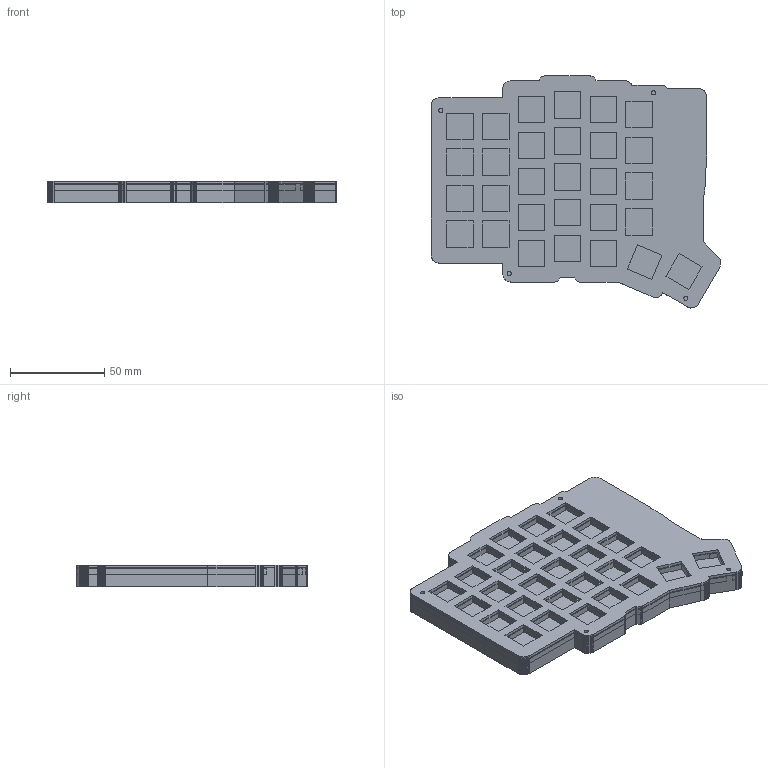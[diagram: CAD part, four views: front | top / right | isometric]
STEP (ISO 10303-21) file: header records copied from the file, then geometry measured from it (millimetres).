
FILE_DESCRIPTION(('Open CASCADE Model'),'2;1');
FILE_NAME('Open CASCADE Shape Model','1979-01-01T00:00:00',('Author'),( 'Open CASCADE'),'Open CASCADE STEP processor 8.0','Open CASCADE 8.0' ,'Unknown');
FILE_SCHEMA(('AUTOMOTIVE_DESIGN { 1 0 10303 214 1 1 1 1 }'));
Length unit declared in the file: millimetre
Products named in the file (6): Open CASCADE STEP translator 8.0 41; Open CASCADE STEP translator 8.0 41.1; Open CASCADE STEP translator 8.0 41.2; Open CASCADE STEP translator 8.0 41.3; Open CASCADE STEP translator 8.0 41.4; Open CASCADE STEP translator 8.0 41.5
Assembly tree (5 placements, depth 2):
  Open CASCADE STEP translator 8.0 41
    Open CASCADE STEP translator 8.0 41.1
    Open CASCADE STEP translator 8.0 41.2
    Open CASCADE STEP translator 8.0 41.3
    Open CASCADE STEP translator 8.0 41.4
    Open CASCADE STEP translator 8.0 41.5
Bounding box: 153.76 x 123.03 x 11.6 mm (x, y, z)
Volume: 140508 mm3; surface area: 143266.8 mm2
Topology: 5 solids, 5 shells, 1650 faces, 4923 edges, 3285 vertices
Faces by surface type: plane 1635, cylinder 15
Full cylindrical faces by diameter (mm): 2.2 x8, 6 x1
Entity records: 118791 total; most frequent: CARTESIAN_POINT 19722, DIRECTION 18102, LINE 14688, VECTOR 14688, ORIENTED_EDGE 9846, PCURVE 9846, DEFINITIONAL_REPRESENTATION 9846, EDGE_CURVE 4923
